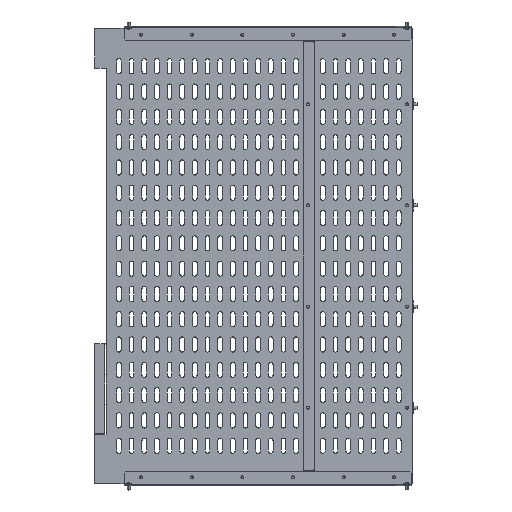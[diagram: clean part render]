
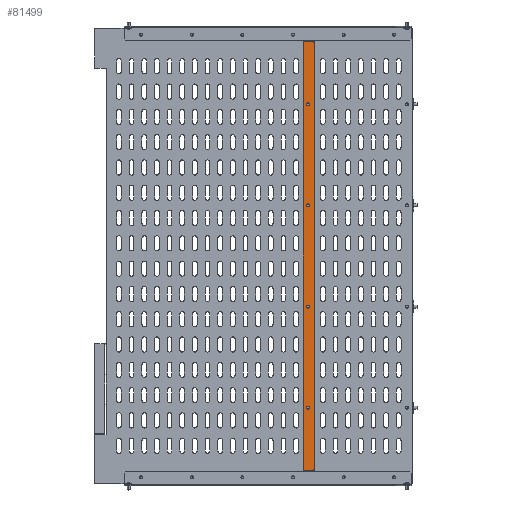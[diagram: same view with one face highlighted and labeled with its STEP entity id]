
A CAD part, front view. The second image highlights one B-rep face of the part: STEP entity #81499.
In plain terms, the highlighted planar face has unit normal (0, -1, 0).
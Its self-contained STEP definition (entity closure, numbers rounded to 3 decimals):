
#443 = DIRECTION ( 'NONE',  ( 0., -1., 0. ) ) ;
#1484 = VERTEX_POINT ( 'NONE', #46855 ) ;
#1564 = LINE ( 'NONE', #53927, #46785 ) ;
#1590 = FACE_OUTER_BOUND ( 'NONE', #17433, .T. ) ;
#2240 = EDGE_LOOP ( 'NONE', ( #35457, #42210 ) ) ;
#4258 = VERTEX_POINT ( 'NONE', #78028 ) ;
#4729 = EDGE_CURVE ( 'NONE', #79422, #52882, #8509, .T. ) ;
#5019 = EDGE_CURVE ( 'NONE', #71955, #62023, #44116, .T. ) ;
#6581 = EDGE_CURVE ( 'NONE', #40344, #15444, #27600, .T. ) ;
#7046 = EDGE_LOOP ( 'NONE', ( #34808, #19785 ) ) ;
#7394 = AXIS2_PLACEMENT_3D ( 'NONE', #38382, #443, #19637 ) ;
#7659 = DIRECTION ( 'NONE',  ( 0., 0., 1. ) ) ;
#7845 = CARTESIAN_POINT ( 'NONE',  ( -196.45, -7.1, -874. ) ) ;
#7961 = DIRECTION ( 'NONE',  ( 1., 0., 0. ) ) ;
#8008 = VECTOR ( 'NONE', #43519, 1000. ) ;
#8509 = LINE ( 'NONE', #65558, #76706 ) ;
#8599 = DIRECTION ( 'NONE',  ( 0., 0., -1. ) ) ;
#8647 = ORIENTED_EDGE ( 'NONE', *, *, #70841, .T. ) ;
#9097 = EDGE_LOOP ( 'NONE', ( #31367, #49869 ) ) ;
#9913 = CARTESIAN_POINT ( 'NONE',  ( -199.45, -7.1, -31. ) ) ;
#10014 = LINE ( 'NONE', #40810, #43682 ) ;
#10992 = CARTESIAN_POINT ( 'NONE',  ( -209., -7.1, -154. ) ) ;
#11388 = AXIS2_PLACEMENT_3D ( 'NONE', #61001, #16740, #47838 ) ;
#11418 = DIRECTION ( 'NONE',  ( -1., 0., 0. ) ) ;
#11705 = DIRECTION ( 'NONE',  ( 0., -1., 0. ) ) ;
#12200 = AXIS2_PLACEMENT_3D ( 'NONE', #18073, #63198, #64444 ) ;
#12330 = ORIENTED_EDGE ( 'NONE', *, *, #68398, .T. ) ;
#14150 = CIRCLE ( 'NONE', #11388, 3. ) ;
#14783 = FACE_BOUND ( 'NONE', #9097, .T. ) ;
#14962 = CIRCLE ( 'NONE', #12200, 3. ) ;
#15210 = CARTESIAN_POINT ( 'NONE',  ( -206.008, -7.1, -553.781 ) ) ;
#15444 = VERTEX_POINT ( 'NONE', #36075 ) ;
#15689 = EDGE_CURVE ( 'NONE', #80165, #4258, #24298, .T. ) ;
#16101 = VERTEX_POINT ( 'NONE', #80497 ) ;
#16740 = DIRECTION ( 'NONE',  ( 0., -1., 0. ) ) ;
#16898 = CARTESIAN_POINT ( 'NONE',  ( -209., -7.1, -754. ) ) ;
#17433 = EDGE_LOOP ( 'NONE', ( #12330, #8647, #48505, #63175, #79570, #31208 ) ) ;
#17551 = CARTESIAN_POINT ( 'NONE',  ( -196.45, -7.1, -34. ) ) ;
#18073 = CARTESIAN_POINT ( 'NONE',  ( -209., -7.1, -754. ) ) ;
#18112 = CARTESIAN_POINT ( 'NONE',  ( -209., -7.1, -354. ) ) ;
#19637 = DIRECTION ( 'NONE',  ( -1., 0., 0. ) ) ;
#19648 = LINE ( 'NONE', #71171, #69634 ) ;
#19785 = ORIENTED_EDGE ( 'NONE', *, *, #6581, .F. ) ;
#21584 = CARTESIAN_POINT ( 'NONE',  ( -209., -7.1, -354. ) ) ;
#21628 = EDGE_CURVE ( 'NONE', #15444, #40344, #29100, .T. ) ;
#22220 = CARTESIAN_POINT ( 'NONE',  ( -218., -7.1, -877. ) ) ;
#22259 = DIRECTION ( 'NONE',  ( 0., -1., 0. ) ) ;
#24298 = CIRCLE ( 'NONE', #37911, 3. ) ;
#27600 = CIRCLE ( 'NONE', #38455, 3. ) ;
#27997 = CARTESIAN_POINT ( 'NONE',  ( -200.5, -7.1, -454. ) ) ;
#29100 = CIRCLE ( 'NONE', #39955, 3. ) ;
#29274 = CARTESIAN_POINT ( 'NONE',  ( -218., -7.1, -31. ) ) ;
#31208 = ORIENTED_EDGE ( 'NONE', *, *, #4729, .T. ) ;
#31367 = ORIENTED_EDGE ( 'NONE', *, *, #15689, .F. ) ;
#31507 = CARTESIAN_POINT ( 'NONE',  ( -211.954, -7.1, -354.524 ) ) ;
#32664 = FACE_BOUND ( 'NONE', #7046, .T. ) ;
#34068 = ORIENTED_EDGE ( 'NONE', *, *, #67976, .F. ) ;
#34806 = DIRECTION ( 'NONE',  ( 0., -1., 0. ) ) ;
#34808 = ORIENTED_EDGE ( 'NONE', *, *, #21628, .F. ) ;
#35090 = EDGE_CURVE ( 'NONE', #1484, #54160, #48921, .T. ) ;
#35457 = ORIENTED_EDGE ( 'NONE', *, *, #5019, .F. ) ;
#36075 = CARTESIAN_POINT ( 'NONE',  ( -206.046, -7.1, -353.476 ) ) ;
#37911 = AXIS2_PLACEMENT_3D ( 'NONE', #49067, #22259, #81020 ) ;
#38382 = CARTESIAN_POINT ( 'NONE',  ( -209., -7.1, -554. ) ) ;
#38455 = AXIS2_PLACEMENT_3D ( 'NONE', #18112, #11705, #71302 ) ;
#39955 = AXIS2_PLACEMENT_3D ( 'NONE', #21584, #34806, #59912 ) ;
#40344 = VERTEX_POINT ( 'NONE', #31507 ) ;
#40810 = CARTESIAN_POINT ( 'NONE',  ( -240.42, -7.1, -877. ) ) ;
#42210 = ORIENTED_EDGE ( 'NONE', *, *, #73891, .F. ) ;
#42822 = CARTESIAN_POINT ( 'NONE',  ( -211.609, -7.1, -155.481 ) ) ;
#43247 = DIRECTION ( 'NONE',  ( -1., 0., 0. ) ) ;
#43519 = DIRECTION ( 'NONE',  ( -0.707, 0., 0.707 ) ) ;
#43682 = VECTOR ( 'NONE', #81555, 1000. ) ;
#44102 = CIRCLE ( 'NONE', #7394, 3. ) ;
#44116 = CIRCLE ( 'NONE', #76762, 3. ) ;
#45624 = DIRECTION ( 'NONE',  ( -1., 0., 0. ) ) ;
#46301 = PLANE ( 'NONE',  #78634 ) ;
#46785 = VECTOR ( 'NONE', #52637, 1000. ) ;
#46855 = CARTESIAN_POINT ( 'NONE',  ( -207.899, -7.1, -751.21 ) ) ;
#47156 = FACE_BOUND ( 'NONE', #78578, .T. ) ;
#47778 = CARTESIAN_POINT ( 'NONE',  ( -199.45, -7.1, -877. ) ) ;
#47838 = DIRECTION ( 'NONE',  ( -1., 0., 0. ) ) ;
#48505 = ORIENTED_EDGE ( 'NONE', *, *, #79859, .T. ) ;
#48921 = CIRCLE ( 'NONE', #78823, 3. ) ;
#49067 = CARTESIAN_POINT ( 'NONE',  ( -209., -7.1, -554. ) ) ;
#49869 = ORIENTED_EDGE ( 'NONE', *, *, #74199, .F. ) ;
#52637 = DIRECTION ( 'NONE',  ( 0.707, 0., 0.707 ) ) ;
#52882 = VERTEX_POINT ( 'NONE', #77417 ) ;
#53535 = FACE_BOUND ( 'NONE', #2240, .T. ) ;
#53808 = EDGE_CURVE ( 'NONE', #79858, #79422, #1564, .T. ) ;
#53927 = CARTESIAN_POINT ( 'NONE',  ( -199.45, -7.1, -877. ) ) ;
#54160 = VERTEX_POINT ( 'NONE', #79410 ) ;
#57540 = LINE ( 'NONE', #17551, #8008 ) ;
#59912 = DIRECTION ( 'NONE',  ( -1., 0., 0. ) ) ;
#60010 = ORIENTED_EDGE ( 'NONE', *, *, #35090, .F. ) ;
#61001 = CARTESIAN_POINT ( 'NONE',  ( -209., -7.1, -154. ) ) ;
#61796 = VERTEX_POINT ( 'NONE', #9913 ) ;
#61805 = LINE ( 'NONE', #22220, #71587 ) ;
#62023 = VERTEX_POINT ( 'NONE', #71173 ) ;
#63175 = ORIENTED_EDGE ( 'NONE', *, *, #70172, .T. ) ;
#63198 = DIRECTION ( 'NONE',  ( 0., -1., 0. ) ) ;
#64444 = DIRECTION ( 'NONE',  ( -1., 0., 0. ) ) ;
#65558 = CARTESIAN_POINT ( 'NONE',  ( -196.45, -7.1, -874. ) ) ;
#67976 = EDGE_CURVE ( 'NONE', #54160, #1484, #14962, .T. ) ;
#68398 = EDGE_CURVE ( 'NONE', #52882, #61796, #57540, .T. ) ;
#69634 = VECTOR ( 'NONE', #45624, 1000. ) ;
#70172 = EDGE_CURVE ( 'NONE', #16101, #79858, #10014, .T. ) ;
#70841 = EDGE_CURVE ( 'NONE', #61796, #73065, #19648, .T. ) ;
#71171 = CARTESIAN_POINT ( 'NONE',  ( -199.45, -7.1, -31. ) ) ;
#71173 = CARTESIAN_POINT ( 'NONE',  ( -206.391, -7.1, -152.519 ) ) ;
#71302 = DIRECTION ( 'NONE',  ( -1., 0., 0. ) ) ;
#71587 = VECTOR ( 'NONE', #8599, 1000. ) ;
#71955 = VERTEX_POINT ( 'NONE', #42822 ) ;
#73065 = VERTEX_POINT ( 'NONE', #29274 ) ;
#73107 = DIRECTION ( 'NONE',  ( 0., 1., 0. ) ) ;
#73891 = EDGE_CURVE ( 'NONE', #62023, #71955, #14150, .T. ) ;
#74199 = EDGE_CURVE ( 'NONE', #4258, #80165, #44102, .T. ) ;
#75219 = DIRECTION ( 'NONE',  ( 0., -1., 0. ) ) ;
#76706 = VECTOR ( 'NONE', #7659, 1000. ) ;
#76762 = AXIS2_PLACEMENT_3D ( 'NONE', #10992, #77389, #11418 ) ;
#77389 = DIRECTION ( 'NONE',  ( 0., -1., 0. ) ) ;
#77417 = CARTESIAN_POINT ( 'NONE',  ( -196.45, -7.1, -34. ) ) ;
#78028 = CARTESIAN_POINT ( 'NONE',  ( -211.992, -7.1, -554.219 ) ) ;
#78578 = EDGE_LOOP ( 'NONE', ( #60010, #34068 ) ) ;
#78634 = AXIS2_PLACEMENT_3D ( 'NONE', #27997, #73107, #7961 ) ;
#78823 = AXIS2_PLACEMENT_3D ( 'NONE', #16898, #75219, #43247 ) ;
#79410 = CARTESIAN_POINT ( 'NONE',  ( -210.101, -7.1, -756.79 ) ) ;
#79422 = VERTEX_POINT ( 'NONE', #7845 ) ;
#79570 = ORIENTED_EDGE ( 'NONE', *, *, #53808, .T. ) ;
#79858 = VERTEX_POINT ( 'NONE', #47778 ) ;
#79859 = EDGE_CURVE ( 'NONE', #73065, #16101, #61805, .T. ) ;
#80165 = VERTEX_POINT ( 'NONE', #15210 ) ;
#80497 = CARTESIAN_POINT ( 'NONE',  ( -218., -7.1, -877. ) ) ;
#81020 = DIRECTION ( 'NONE',  ( -1., 0., 0. ) ) ;
#81499 = ADVANCED_FACE ( 'NONE', ( #1590, #53535, #32664, #14783, #47156 ), #46301, .F. ) ;
#81555 = DIRECTION ( 'NONE',  ( 1., 0., 0. ) ) ;
